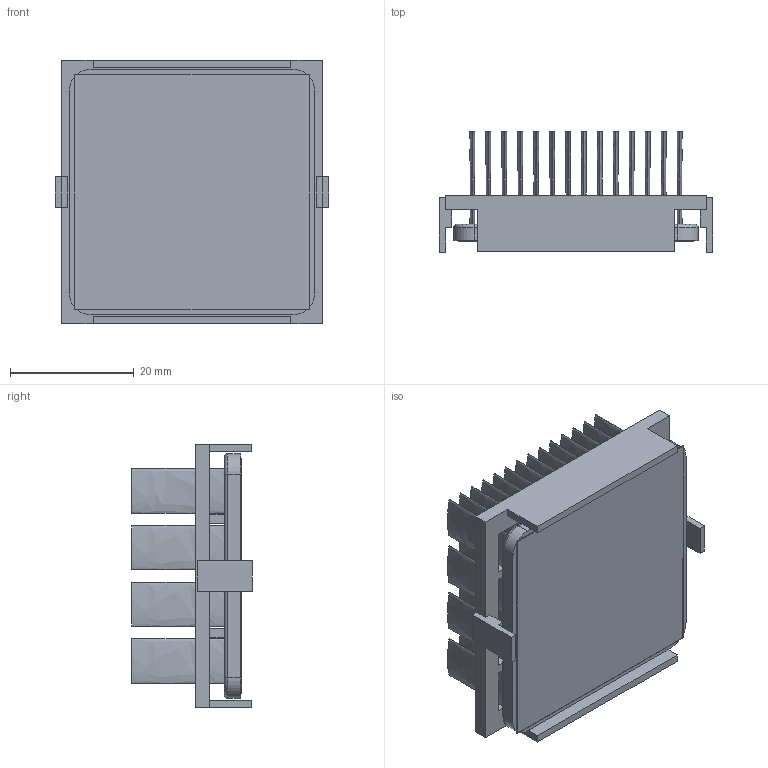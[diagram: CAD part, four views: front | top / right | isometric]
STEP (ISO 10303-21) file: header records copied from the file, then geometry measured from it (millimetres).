
FILE_DESCRIPTION (( 'STEP AP214' ), '1' );
FILE_NAME ('INM40001-18W-2.6BU.STEP', '2023-02-21T17:39:39', ( '' ), ( '' ), 'SwSTEP 2.0', 'SolidWorks 2020', '' );
FILE_SCHEMA (( 'AUTOMOTIVE_DESIGN' ));
Length unit declared in the file: inch
Products named in the file (1): INM40001-18W-2.6BU
Bounding box: 44.2 x 19.5 x 42.7 mm (x, y, z)
Volume: 10096.4 mm3; surface area: 21889.7 mm2
Topology: 3 solids, 3 shells, 250 faces, 556 edges, 368 vertices
Faces by surface type: plane 126, bspline 112, cylinder 8, torus 4
Entity records: 10428 total; most frequent: CARTESIAN_POINT 2631, ORIENTED_EDGE 1112, DIRECTION 630, EDGE_CURVE 556, VERTEX_POINT 368, VECTOR 312, LINE 312, EDGE_LOOP 308
